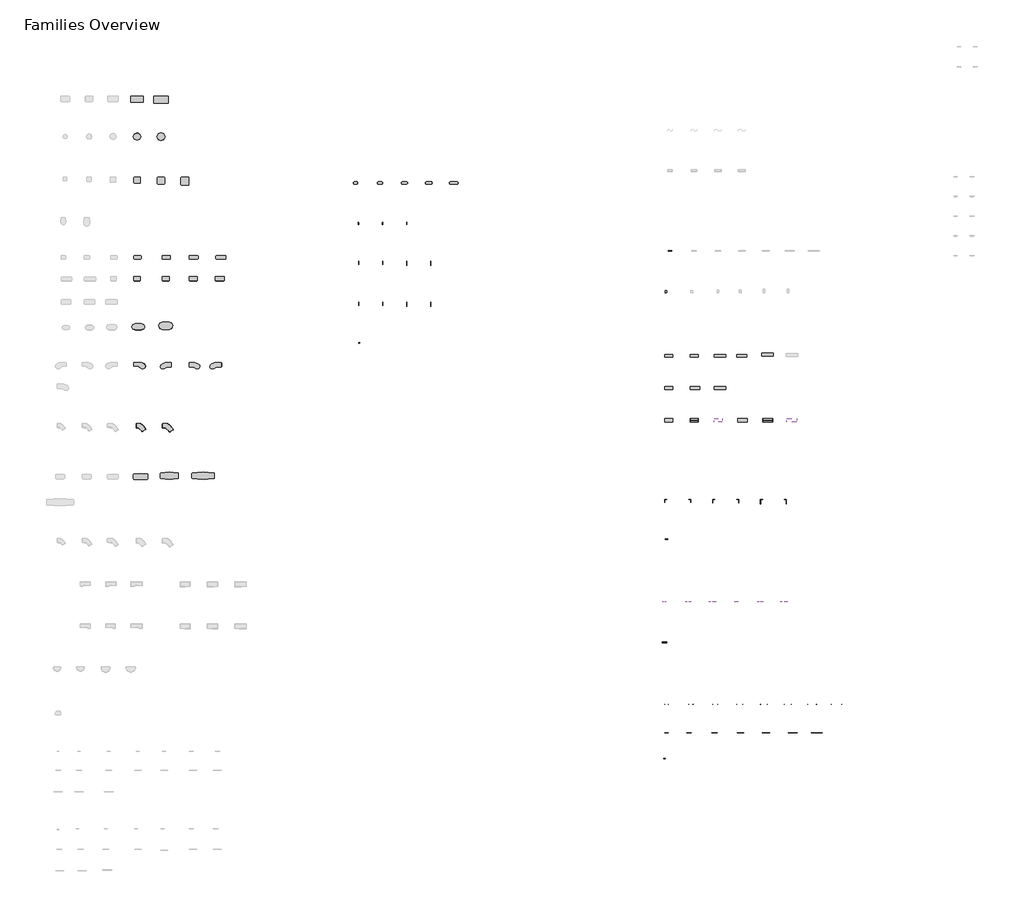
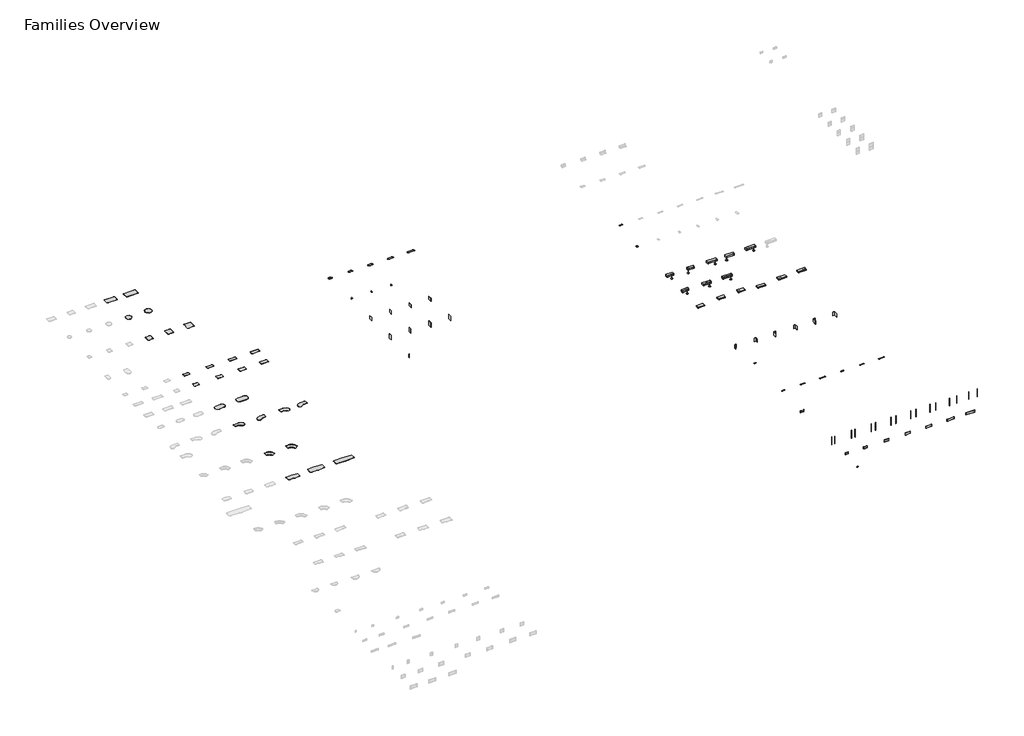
# One storey, part 2 of 3: 89 furniture elements.
"""IFC4 building model written with IfcOpenShell, lengths in millimetres."""

from ifc_helpers import new_model, si_unit, origin, place, context, project, spatial, transform, mapped, element, save
from components import furniture_37d5e29d, furniture_247991a5, furniture_6e175020, furniture_258b9b2a, furniture_7c6aa1f0, furniture_93c865bc, furniture_d00dbc6a, furniture_94bb5d37, furniture_0152e6e9, furniture_3f4145d6, furniture_1f974b37, furniture_5c34945c, furniture_b2e68e31, furniture_16fe0a90, furniture_c1630981, furniture_5bc7b9bf, furniture_8978cb52, furniture_54dfe461, furniture_2d95de3c, furniture_6a103a17, furniture_5fa1d2bb, furniture_203bedc0, furniture_24w_0eacc534, furniture_30w_40e7200a, furniture_30in_f4545fb5, furniture_36w_668825fa, furniture_36in_3b2f66a0, furniture_42w_5b713fd4, furniture_42in_8c8d06e0, furniture_48w_070e4805, furniture_48in_ed8b7022, furniture_54w_5c1945f5, furniture_54w_30in_aff_application_22918827, furniture_54w_42in_aff_application_afbcb237, furniture_54w_48in_aff_application_f83b6835, furniture_54w_left_7cc40421, furniture_54w_right_393ddbf9, furniture_60w_438cd771, furniture_60in_400902f2, furniture_66w_7eafc7d5, furniture_66w_30in_aff_application_ae644d3c, furniture_66w_42in_aff_application_57f57bfd, furniture_66w_48in_aff_application_84337265, furniture_66w_left_0483f67a, furniture_66w_right_cff1954f, furniture_72w_aa4fbc93, furniture_78w_5b03bcda, bracket_7c94740e, left_3864d0c0, power_and_data_strip_18ff1617, rail_mounted_95e6053c, right_3d4eb8b5, shared_88433d17, steelcase_answer_freestanding_support_corner_8e75fba9, steelcase_answer_solution_corner_shelf_15_3_8d_left_0fe8a52e, steelcase_answer_solution_end_panel_on_module_24in_left_b476144d, steelcase_answer_solution_end_panel_on_module_24in_right_417587d6, steelcase_answer_solution_end_panel_on_module_30in_left_bc11ca10, steelcase_answer_solution_end_panel_on_module_30in_right_e7d03cb3, steelcase_answer_solution_end_panel_standing_height_24in_e54e53b6, steelcase_answer_solution_end_panel_standing_height_30in_ff82113f, steelcase_answer_solution_slim_shelf_24in_9e6cb317, steelcase_answer_solution_u_free_desk_end_support_18d_left_e469fbe7, steelcase_answer_solution_u_free_desk_end_support_18d_right_9118059c, steelcase_answer_solution_u_free_desk_end_support_24d_left_3a62796d, steelcase_answer_solution_u_free_desk_end_support_24d_right_f5ae7126, steelcase_answer_solution_u_free_desk_end_support_30d_left_8c8419ba, steelcase_answer_solution_u_free_desk_end_support_30d_right_af2553b0, steelcase_answer_solution_universal_table_rectangular_500580d4, steelcase_answer_solution_universal_table_rectangular_2bf88e8f, steelcase_answer_solution_universal_table_round_48dia_d038612e, steelcase_answer_solution_universal_table_round_54dia_efa4fc29, steelcase_answer_solution_universal_table_square_9a7261b0, steelcase_answer_solution_universal_table_square_16abb5a8, steelcase_answer_solution_universal_table_square_e7776e50, steelcase_answer_solution_wall_channel_66h_24w_40697c5a, steelcase_answer_solution_wall_channel_66h_30w_994337a1, steelcase_answer_solution_wall_channel_66h_36w_325ca293, steelcase_answer_solution_wall_channel_66h_42w_ae999c96, steelcase_answer_solution_wall_channel_66h_45w_9edf4ceb, steelcase_answer_solution_wall_channel_66h_48w_5ba7d7bc, steelcase_answer_solution_wall_channel_66h_60w_7bcefa21, steelcase_answer_solution_wall_channel_66h_72w_49448df2

model = new_model("IFC4")

# Units and contexts
model_context = context("Model", 3, world=origin())
ifc_project = project(units=[si_unit("LENGTHUNIT", "METRE", prefix="MILLI")], contexts=[model_context])

# Site, building, storey
site = spatial("IfcSite", under=ifc_project)
building = spatial("IfcBuilding", under=site)
storey = spatial("IfcBuildingStorey", under=building, Name="Families Overview", Elevation=0.0)

# Furniture
placement = place(None, origin())
furniture_shape = furniture_37d5e29d(model_context)
element("IfcFurniture", 1, ObjectType="Steelcase - Answer Solution - Lighting - Bottomline Shelf Light : With Daisy Chain Cord - 23 1/4W", at=placement, inside=storey, context=model_context, shape_type="MappedRepresentation", body=[
    mapped(furniture_shape, transform((92276.0926755, -352390.4437166, 0.0), x_axis=(1.0, 0.0, 0.0), y_axis=(0.0, 1.0, 0.0), z_axis=(0.0, 0.0, 1.0))),
])
element("IfcFurniture", 2, ObjectType="Steelcase - Answer Solution - Lighting - Bottomline Shelf Light : With Daisy Chain Starter Cord - 23 1/4W", at=placement, inside=storey, context=model_context, shape_type="MappedRepresentation", body=[
    mapped(furniture_shape, transform((104468.0926755, -352390.4437166, 0.0), x_axis=(1.0, 0.0, 0.0), y_axis=(0.0, 1.0, 0.0), z_axis=(0.0, 0.0, 1.0))),
])
furniture_2_shape = furniture_247991a5(model_context)
element("IfcFurniture", 3, ObjectType="Steelcase - Answer Solution - Lighting - Bottomline Shelf Light : With Daisy Chain Cord - 35W", at=placement, inside=storey, context=model_context, shape_type="MappedRepresentation", body=[
    mapped(furniture_2_shape, transform((96340.0926755, -352390.4437166, 0.0), x_axis=(1.0, 0.0, 0.0), y_axis=(0.0, 1.0, 0.0), z_axis=(0.0, 0.0, 1.0))),
])
furniture_3_shape = furniture_6e175020(model_context)
element("IfcFurniture", 4, ObjectType="Steelcase - Answer Solution - Lighting - Bottomline Shelf Light : With Daisy Chain Cord - 46 3/4W", at=placement, inside=storey, context=model_context, shape_type="MappedRepresentation", body=[
    mapped(furniture_3_shape, transform((100404.0926755, -352390.4437166, 0.0), x_axis=(1.0, 0.0, 0.0), y_axis=(0.0, 1.0, 0.0), z_axis=(0.0, 0.0, 1.0))),
])
element("IfcFurniture", 5, ObjectType="Steelcase - Answer Solution - Lighting - Bottomline Shelf Light : With Daisy Chain Starter Cord - 35W", at=placement, inside=storey, context=model_context, shape_type="MappedRepresentation", body=[
    mapped(furniture_2_shape, transform((108532.0926755, -352390.4437166, 0.0), x_axis=(1.0, 0.0, 0.0), y_axis=(0.0, 1.0, 0.0), z_axis=(0.0, 0.0, 1.0))),
])
element("IfcFurniture", 6, ObjectType="Steelcase - Answer Solution - Lighting - Bottomline Shelf Light : With Daisy Chain Starter Cord - 46 3/4W", at=placement, inside=storey, context=model_context, shape_type="MappedRepresentation", body=[
    mapped(furniture_3_shape, transform((112545.2926755, -352390.4437166, 0.0), x_axis=(1.0, 0.0, 0.0), y_axis=(0.0, 1.0, 0.0), z_axis=(0.0, 0.0, 1.0))),
])
furniture_4_shape = furniture_258b9b2a(model_context)
element("IfcFurniture", 7, ObjectType="Steelcase - Answer Solution - Universal Table - Straight - 3mm Edge : 30D x 60W", at=placement, inside=storey, context=model_context, shape_type="MappedRepresentation", body=[
    mapped(furniture_4_shape, transform((16073.9371936, -297113.7746531, 0.0), x_axis=(1.0, 0.0, 0.0), y_axis=(0.0, 1.0, 0.0), z_axis=(0.0, 0.0, 1.0))),
])
furniture_5_shape = furniture_7c6aa1f0(model_context)
element("IfcFurniture", 8, ObjectType="Steelcase - Answer Solution - Universal Table - Straight - 3mm Edge : 24D x 54W", at=placement, inside=storey, context=model_context, shape_type="MappedRepresentation", body=[
    mapped(furniture_5_shape, transform((7082.3371936, -293608.5746531, 0.0), x_axis=(1.0, 0.0, 0.0), y_axis=(0.0, 1.0, 0.0), z_axis=(0.0, 0.0, 1.0))),
])
furniture_6_shape = furniture_93c865bc(model_context)
element("IfcFurniture", 9, ObjectType="Steelcase - Answer Solution - Universal Table - Straight - 3mm Edge : 24D x 66W", at=placement, inside=storey, context=model_context, shape_type="MappedRepresentation", body=[
    mapped(furniture_6_shape, transform((16200.9371936, -293608.5746531, 0.0), x_axis=(1.0, 0.0, 0.0), y_axis=(0.0, 1.0, 0.0), z_axis=(0.0, 0.0, 1.0))),
])
furniture_7_shape = furniture_d00dbc6a(model_context)
element("IfcFurniture", 10, ObjectType="Steelcase - Answer Solution - Universal Table - Straight - 3mm Edge : 24D x 48W", at=placement, inside=storey, context=model_context, shape_type="MappedRepresentation", body=[
    mapped(furniture_7_shape, transform((2281.7371936, -293608.5746531, 0.0), x_axis=(1.0, 0.0, 0.0), y_axis=(0.0, 1.0, 0.0), z_axis=(0.0, 0.0, 1.0))),
])
furniture_8_shape = furniture_94bb5d37(model_context)
element("IfcFurniture", 11, ObjectType="Steelcase - Answer Solution - Universal Table - Straight - 3mm Edge : 24D x 60W", at=placement, inside=storey, context=model_context, shape_type="MappedRepresentation", body=[
    mapped(furniture_8_shape, transform((11654.3371936, -293608.5746531, 0.0), x_axis=(1.0, 0.0, 0.0), y_axis=(0.0, 1.0, 0.0), z_axis=(0.0, 0.0, 1.0))),
])
furniture_9_shape = furniture_0152e6e9(model_context)
element("IfcFurniture", 12, ObjectType="Steelcase - Answer Solution - Universal Table - Straight - 3mm Edge : 30D x 42W", at=placement, inside=storey, context=model_context, shape_type="MappedRepresentation", body=[
    mapped(furniture_9_shape, transform((2281.7371936, -297113.7746531, 0.0), x_axis=(1.0, 0.0, 0.0), y_axis=(0.0, 1.0, 0.0), z_axis=(0.0, 0.0, 1.0))),
])
furniture_10_shape = furniture_3f4145d6(model_context)
element("IfcFurniture", 13, ObjectType="Steelcase - Answer Solution - Universal Table - Straight - 3mm Edge : 30D x 48W", at=placement, inside=storey, context=model_context, shape_type="MappedRepresentation", body=[
    mapped(furniture_10_shape, transform((7082.3371936, -297113.7746531, 0.0), x_axis=(1.0, 0.0, 0.0), y_axis=(0.0, 1.0, 0.0), z_axis=(0.0, 0.0, 1.0))),
])
furniture_11_shape = furniture_1f974b37(model_context)
element("IfcFurniture", 14, ObjectType="Steelcase - Answer Solution - Universal Table - Straight - 3mm Edge : 30D x 54W", at=placement, inside=storey, context=model_context, shape_type="MappedRepresentation", body=[
    mapped(furniture_11_shape, transform((11654.3371936, -297113.7746531, 0.0), x_axis=(1.0, 0.0, 0.0), y_axis=(0.0, 1.0, 0.0), z_axis=(0.0, 0.0, 1.0))),
])
furniture_12_shape = furniture_5c34945c(model_context)
element("IfcFurniture", 15, ObjectType="Steelcase - Answer Solution - Universal Table - Capsule - 3mm Edge : 42D x 84W", at=placement, inside=storey, context=model_context, shape_type="MappedRepresentation", body=[
    mapped(furniture_12_shape, transform((3018.3371936, -305648.1746531, 0.0), x_axis=(1.0, 0.0, 0.0), y_axis=(0.0, 1.0, 0.0), z_axis=(0.0, 0.0, 1.0))),
])
furniture_13_shape = furniture_b2e68e31(model_context)
element("IfcFurniture", 16, ObjectType="Steelcase - Answer Solution - Universal Table - Capsule - 3mm Edge : 48D x 96W", at=placement, inside=storey, context=model_context, shape_type="MappedRepresentation", body=[
    mapped(furniture_13_shape, transform((7691.9371936, -305495.7746531, 0.0), x_axis=(1.0, 0.0, 0.0), y_axis=(0.0, 1.0, 0.0), z_axis=(0.0, 0.0, 1.0))),
])
furniture_14_shape = furniture_16fe0a90(model_context)
element("IfcFurniture", 17, ObjectType="Steelcase - Answer Solution - Universal Table - Bubble Jetty - 3mm Edge : 24D x 78W - Right", at=placement, inside=storey, context=model_context, shape_type="MappedRepresentation", body=[
    mapped(furniture_14_shape, transform((2281.7371936, -311744.1746531, 0.0), x_axis=(1.0, 0.0, 0.0), y_axis=(0.0, 1.0, 0.0), z_axis=(0.0, 0.0, 1.0))),
])
furniture_15_shape = furniture_c1630981(model_context)
element("IfcFurniture", 18, ObjectType="Steelcase - Answer Solution - Universal Table - Bubble Jetty - 3mm Edge : 30D x 72W - Left", at=placement, inside=storey, context=model_context, shape_type="MappedRepresentation", body=[
    mapped(furniture_15_shape, transform((8606.3371936, -311744.1746531, 0.0), x_axis=(1.0, 0.0, 0.0), y_axis=(0.0, 1.0, 0.0), z_axis=(0.0, 0.0, 1.0))),
])
furniture_16_shape = furniture_5bc7b9bf(model_context)
element("IfcFurniture", 19, ObjectType="Steelcase - Answer Solution - Universal Table - Bubble Jetty - 3mm Edge : 30D x 78W - Left", at=placement, inside=storey, context=model_context, shape_type="MappedRepresentation", body=[
    mapped(furniture_16_shape, transform((17140.7371936, -311744.1746531, 0.0), x_axis=(1.0, 0.0, 0.0), y_axis=(0.0, 1.0, 0.0), z_axis=(0.0, 0.0, 1.0))),
])
furniture_17_shape = furniture_8978cb52(model_context)
element("IfcFurniture", 20, ObjectType="Steelcase - Answer Solution - Universal Table - Bubble Jetty - 3mm Edge : 30D x 72W - Right", at=placement, inside=storey, context=model_context, shape_type="MappedRepresentation", body=[
    mapped(furniture_17_shape, transform((11654.3371936, -311744.1746531, 0.0), x_axis=(1.0, 0.0, 0.0), y_axis=(0.0, 1.0, 0.0), z_axis=(0.0, 0.0, 1.0))),
])
furniture_18_shape = furniture_54dfe461(model_context)
element("IfcFurniture", 21, ObjectType="Steelcase - Answer Solution - Universal Table - Corner 120deg - 3mm Edge : 30D x 42W", at=placement, inside=storey, context=model_context, shape_type="MappedRepresentation", body=[
    mapped(furniture_18_shape, transform((2662.7371936, -322107.3746531, 0.0), x_axis=(1.0, 0.0, 0.0), y_axis=(0.0, 1.0, 0.0), z_axis=(0.0, 0.0, 1.0))),
])
furniture_19_shape = furniture_2d95de3c(model_context)
element("IfcFurniture", 22, ObjectType="Steelcase - Answer Solution - Universal Table - Corner 120deg - 3mm Edge : 30D x 48W", at=placement, inside=storey, context=model_context, shape_type="MappedRepresentation", body=[
    mapped(furniture_19_shape, transform((7082.3371936, -322107.3746531, 0.0), x_axis=(1.0, 0.0, 0.0), y_axis=(0.0, 1.0, 0.0), z_axis=(0.0, 0.0, 1.0))),
])
furniture_20_shape = furniture_6a103a17(model_context)
element("IfcFurniture", 23, ObjectType="Steelcase - Answer Solution - Universal Table - Hex Conference : 42D x 96W", at=placement, inside=storey, context=model_context, shape_type="MappedRepresentation", body=[
    mapped(furniture_20_shape, transform((2208.7121936, -330413.1746531, 0.0), x_axis=(1.0, 0.0, 0.0), y_axis=(0.0, 1.0, 0.0), z_axis=(0.0, 0.0, 1.0))),
])
furniture_21_shape = furniture_5fa1d2bb(model_context)
element("IfcFurniture", 24, ObjectType="Steelcase - Answer Solution - Universal Table - Hex Conference : 48D x 120W", at=placement, inside=storey, context=model_context, shape_type="MappedRepresentation", body=[
    mapped(furniture_21_shape, transform((6780.7121936, -330184.5746531, 0.0), x_axis=(1.0, 0.0, 0.0), y_axis=(0.0, 1.0, 0.0), z_axis=(0.0, 0.0, 1.0))),
])
furniture_22_shape = furniture_203bedc0(model_context)
element("IfcFurniture", 25, ObjectType="Steelcase - Answer Solution - Universal Table - Hex Conference : 48D x 150W", at=placement, inside=storey, context=model_context, shape_type="MappedRepresentation", body=[
    mapped(furniture_22_shape, transform((12114.7121936, -330184.5746531, 0.0), x_axis=(1.0, 0.0, 0.0), y_axis=(0.0, 1.0, 0.0), z_axis=(0.0, 0.0, 1.0))),
])
furniture_24w_shape = furniture_24w_0eacc534(model_context)
element("IfcFurniture", 26, ObjectType="Steelcase - Answer Solution - Tackboards for Use with Wall Channels : 24W", at=placement, inside=storey, context=model_context, shape_type="MappedRepresentation", body=[
    mapped(furniture_24w_shape, transform((92237.9922444, -374525.3678408, 0.0), x_axis=(1.0, 0.0, 0.0), y_axis=(0.0, 1.0, 0.0), z_axis=(0.0, 0.0, 1.0))),
])
furniture_30w_shape = furniture_30w_40e7200a(model_context)
element("IfcFurniture", 27, ObjectType="Steelcase - Answer Solution - Tackboards for Use with Wall Channels : 30W", at=placement, inside=storey, context=model_context, shape_type="MappedRepresentation", body=[
    mapped(furniture_30w_shape, transform((95978.8201482, -374525.3678408, 0.0), x_axis=(1.0, 0.0, 0.0), y_axis=(0.0, 1.0, 0.0), z_axis=(0.0, 0.0, 1.0))),
])
furniture_30in_shape = furniture_30in_f4545fb5(model_context)
element("IfcFurniture", 28, ObjectType="Steelcase - Answer Solution - Transaction Worksurface - Square Trim - 3mm Edge : 30in", at=placement, inside=storey, context=model_context, shape_type="MappedRepresentation", body=[
    mapped(furniture_30in_shape, transform((39502.4605518, -281230.4754246, 0.0), x_axis=(1.0, 0.0, 0.0), y_axis=(0.0, 1.0, 0.0), z_axis=(0.0, 0.0, 1.0))),
])
furniture_36w_shape = furniture_36w_668825fa(model_context)
element("IfcFurniture", 29, ObjectType="Steelcase - Answer Solution - Tackboards for Use with Wall Channels : 36W", at=placement, inside=storey, context=model_context, shape_type="MappedRepresentation", body=[
    mapped(furniture_36w_shape, transform((100246.0201482, -374525.3678408, 0.0), x_axis=(1.0, 0.0, 0.0), y_axis=(0.0, 1.0, 0.0), z_axis=(0.0, 0.0, 1.0))),
])
furniture_36in_shape = furniture_36in_3b2f66a0(model_context)
element("IfcFurniture", 30, ObjectType="Steelcase - Answer Solution - Transaction Worksurface - Square Trim - 3mm Edge : 36in", at=placement, inside=storey, context=model_context, shape_type="MappedRepresentation", body=[
    mapped(furniture_36in_shape, transform((43566.4605518, -281230.4754246, 0.0), x_axis=(1.0, 0.0, 0.0), y_axis=(0.0, 1.0, 0.0), z_axis=(0.0, 0.0, 1.0))),
])
furniture_42w_shape = furniture_42w_5b713fd4(model_context)
element("IfcFurniture", 31, ObjectType="Steelcase - Answer Solution - Tackboards for Use with Wall Channels : 42W", at=placement, inside=storey, context=model_context, shape_type="MappedRepresentation", body=[
    mapped(furniture_42w_shape, transform((104564.0201482, -374525.3678408, 0.0), x_axis=(1.0, 0.0, 0.0), y_axis=(0.0, 1.0, 0.0), z_axis=(0.0, 0.0, 1.0))),
])
furniture_42in_shape = furniture_42in_8c8d06e0(model_context)
element("IfcFurniture", 32, ObjectType="Steelcase - Answer Solution - Transaction Worksurface - Square Trim - 3mm Edge : 42in", at=placement, inside=storey, context=model_context, shape_type="MappedRepresentation", body=[
    mapped(furniture_42in_shape, transform((47630.4605518, -281230.4754246, 0.0), x_axis=(1.0, 0.0, 0.0), y_axis=(0.0, 1.0, 0.0), z_axis=(0.0, 0.0, 1.0))),
])
furniture_48w_shape = furniture_48w_070e4805(model_context)
element("IfcFurniture", 33, ObjectType="Steelcase - Answer Solution - Tackboards for Use with Wall Channels : 48W", at=placement, inside=storey, context=model_context, shape_type="MappedRepresentation", body=[
    mapped(furniture_48w_shape, transform((108831.2201482, -374525.3678408, 0.0), x_axis=(1.0, 0.0, 0.0), y_axis=(0.0, 1.0, 0.0), z_axis=(0.0, 0.0, 1.0))),
])
furniture_48in_shape = furniture_48in_ed8b7022(model_context)
element("IfcFurniture", 34, ObjectType="Steelcase - Answer Solution - Transaction Worksurface - Square Trim - 3mm Edge : 48in", at=placement, inside=storey, context=model_context, shape_type="MappedRepresentation", body=[
    mapped(furniture_48in_shape, transform((51694.4605518, -281230.4754246, 0.0), x_axis=(1.0, 0.0, 0.0), y_axis=(0.0, 1.0, 0.0), z_axis=(0.0, 0.0, 1.0))),
])
furniture_54w_shape = furniture_54w_5c1945f5(model_context)
element("IfcFurniture", 35, ObjectType="Steelcase - Duo Storage - For Use with Answer Junction - Tall Storage with Leg - Shared : 54W", at=placement, inside=storey, context=model_context, shape_type="MappedRepresentation", body=[
    mapped(furniture_54w_shape, transform((92301.4922444, -316053.9281974, 0.0), x_axis=(1.0, 0.0, 0.0), y_axis=(0.0, 1.0, 0.0), z_axis=(0.0, 0.0, 1.0))),
])
furniture_54w_30in_aff_application_shape = furniture_54w_30in_aff_application_22918827(model_context)
element("IfcFurniture", 36, ObjectType="Steelcase - Duo Storage - For Use with Top Cap Mounted Storage - Slim : 54W - 30in AFF Application", at=placement, inside=storey, context=model_context, shape_type="MappedRepresentation", body=[
    mapped(furniture_54w_30in_aff_application_shape, transform((92301.4922444, -321540.3281974, 0.0), x_axis=(1.0, 0.0, 0.0), y_axis=(0.0, 1.0, 0.0), z_axis=(0.0, 0.0, 1.0))),
])
furniture_54w_42in_aff_application_shape = furniture_54w_42in_aff_application_afbcb237(model_context)
element("IfcFurniture", 37, ObjectType="Steelcase - Duo Storage - For Use with Top Cap Mounted Storage - Slim : 54W - 42in AFF Application", at=placement, inside=storey, context=model_context, shape_type="MappedRepresentation", body=[
    mapped(furniture_54w_42in_aff_application_shape, transform((96594.0922444, -321540.3281974, 0.0), x_axis=(1.0, 0.0, 0.0), y_axis=(0.0, 1.0, 0.0), z_axis=(0.0, 0.0, 1.0))),
])
furniture_54w_48in_aff_application_shape = furniture_54w_48in_aff_application_f83b6835(model_context)
element("IfcFurniture", 38, ObjectType="Steelcase - Duo Storage - For Use with Top Cap Mounted Storage - Slim : 54W - 48in AFF Application", at=placement, inside=storey, context=model_context, shape_type="MappedRepresentation", body=[
    mapped(furniture_54w_48in_aff_application_shape, transform((100658.0922444, -321540.3281974, 0.0), x_axis=(1.0, 0.0, 0.0), y_axis=(0.0, 1.0, 0.0), z_axis=(0.0, 0.0, 1.0))),
])
furniture_54w_left_shape = furniture_54w_left_7cc40421(model_context)
element("IfcFurniture", 39, ObjectType="Steelcase - Duo Storage - For Use with Answer Junction - Tall Storage with Leg - Individual : 54W - Left", at=placement, inside=storey, context=model_context, shape_type="MappedRepresentation", body=[
    mapped(furniture_54w_left_shape, transform((92301.4922444, -310567.5281974, 0.0), x_axis=(1.0, 0.0, 0.0), y_axis=(0.0, 1.0, 0.0), z_axis=(0.0, 0.0, 1.0))),
])
furniture_54w_right_shape = furniture_54w_right_393ddbf9(model_context)
element("IfcFurniture", 40, ObjectType="Steelcase - Duo Storage - For Use with Answer Junction - Tall Storage with Leg - Individual : 54W - Right", at=placement, inside=storey, context=model_context, shape_type="MappedRepresentation", body=[
    mapped(furniture_54w_right_shape, transform((96594.0922444, -310567.5281974, 0.0), x_axis=(1.0, 0.0, 0.0), y_axis=(0.0, 1.0, 0.0), z_axis=(0.0, 0.0, 1.0))),
])
furniture_60w_shape = furniture_60w_438cd771(model_context)
element("IfcFurniture", 41, ObjectType="Steelcase - Answer Solution - Tackboards for Use with Wall Channels : 60W", at=placement, inside=storey, context=model_context, shape_type="MappedRepresentation", body=[
    mapped(furniture_60w_shape, transform((113200.0201482, -374525.3678408, 0.0), x_axis=(1.0, 0.0, 0.0), y_axis=(0.0, 1.0, 0.0), z_axis=(0.0, 0.0, 1.0))),
])
furniture_60in_shape = furniture_60in_400902f2(model_context)
element("IfcFurniture", 42, ObjectType="Steelcase - Answer Solution - Transaction Worksurface - Square Trim - 3mm Edge : 60in", at=placement, inside=storey, context=model_context, shape_type="MappedRepresentation", body=[
    mapped(furniture_60in_shape, transform((55758.4605518, -281230.4754246, 0.0), x_axis=(1.0, 0.0, 0.0), y_axis=(0.0, 1.0, 0.0), z_axis=(0.0, 0.0, 1.0))),
])
furniture_66w_shape = furniture_66w_7eafc7d5(model_context)
element("IfcFurniture", 43, ObjectType="Steelcase - Duo Storage - For Use with Answer Junction - Tall Storage with Leg - Shared : 66W", at=placement, inside=storey, context=model_context, shape_type="MappedRepresentation", body=[
    mapped(furniture_66w_shape, transform((96594.0922444, -316053.9281974, 0.0), x_axis=(1.0, 0.0, 0.0), y_axis=(0.0, 1.0, 0.0), z_axis=(0.0, 0.0, 1.0))),
])
furniture_66w_30in_aff_application_shape = furniture_66w_30in_aff_application_ae644d3c(model_context)
element("IfcFurniture", 44, ObjectType="Steelcase - Duo Storage - For Use with Top Cap Mounted Storage - Slim : 66W - 30in AFF Application", at=placement, inside=storey, context=model_context, shape_type="MappedRepresentation", body=[
    mapped(furniture_66w_30in_aff_application_shape, transform((104645.8922444, -321540.3281974, 0.0), x_axis=(1.0, 0.0, 0.0), y_axis=(0.0, 1.0, 0.0), z_axis=(0.0, 0.0, 1.0))),
])
furniture_66w_42in_aff_application_shape = furniture_66w_42in_aff_application_57f57bfd(model_context)
element("IfcFurniture", 45, ObjectType="Steelcase - Duo Storage - For Use with Top Cap Mounted Storage - Slim : 66W - 42in AFF Application", at=placement, inside=storey, context=model_context, shape_type="MappedRepresentation", body=[
    mapped(furniture_66w_42in_aff_application_shape, transform((108938.4922444, -321540.3281974, 0.0), x_axis=(1.0, 0.0, 0.0), y_axis=(0.0, 1.0, 0.0), z_axis=(0.0, 0.0, 1.0))),
])
furniture_66w_48in_aff_application_shape = furniture_66w_48in_aff_application_84337265(model_context)
element("IfcFurniture", 46, ObjectType="Steelcase - Duo Storage - For Use with Top Cap Mounted Storage - Slim : 66W - 48in AFF Application", at=placement, inside=storey, context=model_context, shape_type="MappedRepresentation", body=[
    mapped(furniture_66w_48in_aff_application_shape, transform((113002.4922444, -321540.3281974, 0.0), x_axis=(1.0, 0.0, 0.0), y_axis=(0.0, 1.0, 0.0), z_axis=(0.0, 0.0, 1.0))),
])
furniture_66w_left_shape = furniture_66w_left_0483f67a(model_context)
element("IfcFurniture", 47, ObjectType="Steelcase - Duo Storage - For Use with Answer Junction - Tall Storage with Leg - Individual : 66W - Left", at=placement, inside=storey, context=model_context, shape_type="MappedRepresentation", body=[
    mapped(furniture_66w_left_shape, transform((100658.0922444, -310567.5281974, 0.0), x_axis=(1.0, 0.0, 0.0), y_axis=(0.0, 1.0, 0.0), z_axis=(0.0, 0.0, 1.0))),
])
furniture_66w_right_shape = furniture_66w_right_cff1954f(model_context)
element("IfcFurniture", 48, ObjectType="Steelcase - Duo Storage - For Use with Answer Junction - Tall Storage with Leg - Individual : 66W - Right", at=placement, inside=storey, context=model_context, shape_type="MappedRepresentation", body=[
    mapped(furniture_66w_right_shape, transform((104493.4922444, -310567.5281974, 0.0), x_axis=(1.0, 0.0, 0.0), y_axis=(0.0, 1.0, 0.0), z_axis=(0.0, 0.0, 1.0))),
])
furniture_72w_shape = furniture_72w_aa4fbc93(model_context)
element("IfcFurniture", 49, ObjectType="Steelcase - Answer Solution - Tackboards for Use with Wall Channels : 72W", at=placement, inside=storey, context=model_context, shape_type="MappedRepresentation", body=[
    mapped(furniture_72w_shape, transform((117111.6201482, -374525.3678408, 0.0), x_axis=(1.0, 0.0, 0.0), y_axis=(0.0, 1.0, 0.0), z_axis=(0.0, 0.0, 1.0))),
])
furniture_78w_shape = furniture_78w_5b03bcda(model_context)
element("IfcFurniture", 50, ObjectType="Steelcase - Duo Storage - For Use with Answer Junction - Tall Storage with Leg - Shared : 78W", at=placement, inside=storey, context=model_context, shape_type="MappedRepresentation", body=[
    mapped(furniture_78w_shape, transform((100658.0922444, -316053.9281974, 0.0), x_axis=(1.0, 0.0, 0.0), y_axis=(0.0, 1.0, 0.0), z_axis=(0.0, 0.0, 1.0))),
])
element("IfcFurniture", 51, ObjectType="Steelcase - Duo Storage - For Use with Answer Junction - Tall Storage with Leg - Individual : 78W - Left", at=placement, inside=storey, context=model_context, shape_type="MappedRepresentation", body=[
    mapped(furniture_66w_left_shape, transform((108709.8922444, -310379.0085696, 0.0), x_axis=(1.0, 0.0, 0.0), y_axis=(0.0, 1.0, 0.0), z_axis=(0.0, 0.0, 1.0))),
])
bracket_shape = bracket_7c94740e(model_context)
element("IfcFurniture", 52, ObjectType="Steelcase - Answer Solution - U-Free Desk - Flush Mount Bracket : Bracket", at=placement, inside=storey, context=model_context, shape_type="MappedRepresentation", body=[
    mapped(bracket_shape, transform((92536.4422436, -341686.9786999, 0.0), x_axis=(1.0, 0.0, 0.0), y_axis=(0.0, 1.0, 0.0), z_axis=(0.0, 0.0, 1.0))),
])
left_shape = left_3864d0c0(model_context)
element("IfcFurniture", 53, ObjectType="Steelcase - Answer Solution - Panel Mounted Universal Support - Cantilever : Left", at=placement, inside=storey, context=model_context, shape_type="MappedRepresentation", body=[
    mapped(left_shape, transform((40350.0585518, -287940.8379246, 0.0), x_axis=(1.0, 0.0, 0.0), y_axis=(0.0, 1.0, 0.0), z_axis=(0.0, 0.0, 1.0))),
])
power_and_data_strip_shape = power_and_data_strip_18ff1617(model_context)
element("IfcFurniture", 54, ObjectType="Steelcase - Answer Solution - Power Strips : Power and Data Strip", at=placement, inside=storey, context=model_context, shape_type="MappedRepresentation", body=[
    mapped(power_and_data_strip_shape, transform((92023.9844314, -378726.7894924, 0.0), x_axis=(1.0, 0.0, 0.0), y_axis=(0.0, 1.0, 0.0), z_axis=(0.0, 0.0, 1.0))),
])
rail_mounted_shape = rail_mounted_95e6053c(model_context)
element("IfcFurniture", 55, ObjectType="Steelcase - Answer Solution - Lighting - LED Personal Task Light : Rail Mounted", at=placement, inside=storey, context=model_context, shape_type="MappedRepresentation", body=[
    mapped(rail_mounted_shape, transform((92276.0922444, -359262.0079921, 0.0), x_axis=(1.0, 0.0, 0.0), y_axis=(0.0, 1.0, 0.0), z_axis=(0.0, 0.0, 1.0))),
])
right_shape = right_3d4eb8b5(model_context)
element("IfcFurniture", 56, ObjectType="Steelcase - Answer Solution - Panel Mounted Universal Support - Cantilever : Right", at=placement, inside=storey, context=model_context, shape_type="MappedRepresentation", body=[
    mapped(right_shape, transform((44480.8605518, -287940.8379246, 0.0), x_axis=(1.0, 0.0, 0.0), y_axis=(0.0, 1.0, 0.0), z_axis=(0.0, 0.0, 1.0))),
])
shared_shape = shared_88433d17(model_context)
element("IfcFurniture", 57, ObjectType="Steelcase - Answer Solution - Panel Mounted Universal Support - Cantilever : Shared", at=placement, inside=storey, context=model_context, shape_type="MappedRepresentation", body=[
    mapped(shared_shape, transform((48544.8605518, -287940.8379246, 0.0), x_axis=(1.0, 0.0, 0.0), y_axis=(0.0, 1.0, 0.0), z_axis=(0.0, 0.0, 1.0))),
])
steelcase_answer_freestanding_support_corner_shape = steelcase_answer_freestanding_support_corner_8e75fba9(model_context)
element("IfcFurniture", 58, ObjectType="Steelcase - Answer Freestanding - Support - Corner : 5 1/2in x 5 1/2in x 27H", at=placement, inside=storey, context=model_context, shape_type="MappedRepresentation", body=[
    mapped(steelcase_answer_freestanding_support_corner_shape, transform((40416.885952, -308362.4379246, 0.0), x_axis=(1.0, 0.0, 0.0), y_axis=(0.0, 1.0, 0.0), z_axis=(0.0, 0.0, 1.0))),
])
steelcase_answer_solution_corner_shelf_15_3_8d_left_shape = steelcase_answer_solution_corner_shelf_15_3_8d_left_0fe8a52e(model_context)
element("IfcFurniture", 59, ObjectType="Steelcase - Answer Solution - Corner Shelf : 15 3/8D - Left", at=placement, inside=storey, context=model_context, shape_type="MappedRepresentation", body=[
    mapped(steelcase_answer_solution_corner_shelf_15_3_8d_left_shape, transform((92212.5922444, -299436.9426286, 0.0), x_axis=(1.0, 0.0, 0.0), y_axis=(0.0, 1.0, 0.0), z_axis=(0.0, 0.0, 1.0))),
])
steelcase_answer_solution_end_panel_on_module_24in_left_shape = steelcase_answer_solution_end_panel_on_module_24in_left_b476144d(model_context)
element("IfcFurniture", 60, ObjectType="Steelcase - Answer Solution - End Panel - On Module : 24in - Left", at=placement, inside=storey, context=model_context, shape_type="MappedRepresentation", body=[
    mapped(steelcase_answer_solution_end_panel_on_module_24in_left_shape, transform((40426.385358, -294494.0379246, 0.0), x_axis=(1.0, 0.0, 0.0), y_axis=(0.0, 1.0, 0.0), z_axis=(0.0, 0.0, 1.0))),
])
steelcase_answer_solution_end_panel_on_module_24in_right_shape = steelcase_answer_solution_end_panel_on_module_24in_right_417587d6(model_context)
element("IfcFurniture", 61, ObjectType="Steelcase - Answer Solution - End Panel - On Module : 24in - Right", at=placement, inside=storey, context=model_context, shape_type="MappedRepresentation", body=[
    mapped(steelcase_answer_solution_end_panel_on_module_24in_right_shape, transform((44487.845358, -294494.0379246, 0.0), x_axis=(1.0, 0.0, 0.0), y_axis=(0.0, 1.0, 0.0), z_axis=(0.0, 0.0, 1.0))),
])
steelcase_answer_solution_end_panel_on_module_30in_left_shape = steelcase_answer_solution_end_panel_on_module_30in_left_bc11ca10(model_context)
element("IfcFurniture", 62, ObjectType="Steelcase - Answer Solution - End Panel - On Module : 30in - Left", at=placement, inside=storey, context=model_context, shape_type="MappedRepresentation", body=[
    mapped(steelcase_answer_solution_end_panel_on_module_30in_left_shape, transform((48554.385358, -294494.0379246, 0.0), x_axis=(1.0, 0.0, 0.0), y_axis=(0.0, 1.0, 0.0), z_axis=(0.0, 0.0, 1.0))),
])
steelcase_answer_solution_end_panel_on_module_30in_right_shape = steelcase_answer_solution_end_panel_on_module_30in_right_e7d03cb3(model_context)
element("IfcFurniture", 63, ObjectType="Steelcase - Answer Solution - End Panel - On Module : 30in - Right", at=placement, inside=storey, context=model_context, shape_type="MappedRepresentation", body=[
    mapped(steelcase_answer_solution_end_panel_on_module_30in_right_shape, transform((52615.845358, -294494.0379246, 0.0), x_axis=(1.0, 0.0, 0.0), y_axis=(0.0, 1.0, 0.0), z_axis=(0.0, 0.0, 1.0))),
])
steelcase_answer_solution_end_panel_standing_height_24in_shape = steelcase_answer_solution_end_panel_standing_height_24in_e54e53b6(model_context)
element("IfcFurniture", 64, ObjectType="Steelcase - Answer Solution - End Panel - Standing Height : 24in - Left", at=placement, inside=storey, context=model_context, shape_type="MappedRepresentation", body=[
    mapped(steelcase_answer_solution_end_panel_standing_height_24in_shape, transform((40416.8605518, -301504.4379246, 0.0), x_axis=(1.0, 0.0, 0.0), y_axis=(0.0, 1.0, 0.0), z_axis=(0.0, 0.0, 1.0))),
])
element("IfcFurniture", 65, ObjectType="Steelcase - Answer Solution - End Panel - Standing Height : 24in - Right", at=placement, inside=storey, context=model_context, shape_type="MappedRepresentation", body=[
    mapped(steelcase_answer_solution_end_panel_standing_height_24in_shape, transform((44480.8605518, -301504.4379246, 0.0), x_axis=(1.0, 0.0, 0.0), y_axis=(0.0, 1.0, 0.0), z_axis=(0.0, 0.0, 1.0))),
])
steelcase_answer_solution_end_panel_standing_height_30in_shape = steelcase_answer_solution_end_panel_standing_height_30in_ff82113f(model_context)
element("IfcFurniture", 66, ObjectType="Steelcase - Answer Solution - End Panel - Standing Height : 30in - Left", at=placement, inside=storey, context=model_context, shape_type="MappedRepresentation", body=[
    mapped(steelcase_answer_solution_end_panel_standing_height_30in_shape, transform((48544.8605518, -301504.4379246, 0.0), x_axis=(1.0, 0.0, 0.0), y_axis=(0.0, 1.0, 0.0), z_axis=(0.0, 0.0, 1.0))),
])
element("IfcFurniture", 67, ObjectType="Steelcase - Answer Solution - End Panel - Standing Height : 30in - Right", at=placement, inside=storey, context=model_context, shape_type="MappedRepresentation", body=[
    mapped(steelcase_answer_solution_end_panel_standing_height_30in_shape, transform((52608.8605518, -301504.4379246, 0.0), x_axis=(1.0, 0.0, 0.0), y_axis=(0.0, 1.0, 0.0), z_axis=(0.0, 0.0, 1.0))),
])
steelcase_answer_solution_slim_shelf_24in_shape = steelcase_answer_solution_slim_shelf_24in_9e6cb317(model_context)
element("IfcFurniture", 68, ObjectType="Steelcase - Answer Solution - Slim Shelf : 24in", at=placement, inside=storey, context=model_context, shape_type="MappedRepresentation", body=[
    mapped(steelcase_answer_solution_slim_shelf_24in_shape, transform((92885.6922444, -292708.5915943, 0.0), x_axis=(1.0, 0.0, 0.0), y_axis=(0.0, 1.0, 0.0), z_axis=(0.0, 0.0, 1.0))),
])
steelcase_answer_solution_u_free_desk_end_support_18d_left_shape = steelcase_answer_solution_u_free_desk_end_support_18d_left_e469fbe7(model_context)
element("IfcFurniture", 69, ObjectType="Steelcase - Answer Solution - U-Free Desk - End Support : 18D - Left", at=placement, inside=storey, context=model_context, shape_type="MappedRepresentation", body=[
    mapped(steelcase_answer_solution_u_free_desk_end_support_18d_left_shape, transform((92272.9913063, -334974.6150281, 0.0), x_axis=(1.0, 0.0, 0.0), y_axis=(0.0, 1.0, 0.0), z_axis=(0.0, 0.0, 1.0))),
])
steelcase_answer_solution_u_free_desk_end_support_18d_right_shape = steelcase_answer_solution_u_free_desk_end_support_18d_right_9118059c(model_context)
element("IfcFurniture", 70, ObjectType="Steelcase - Answer Solution - U-Free Desk - End Support : 18D - Right", at=placement, inside=storey, context=model_context, shape_type="MappedRepresentation", body=[
    mapped(steelcase_answer_solution_u_free_desk_end_support_18d_right_shape, transform((96336.9913063, -334974.6150281, 0.0), x_axis=(1.0, 0.0, 0.0), y_axis=(0.0, 1.0, 0.0), z_axis=(0.0, 0.0, 1.0))),
])
steelcase_answer_solution_u_free_desk_end_support_24d_left_shape = steelcase_answer_solution_u_free_desk_end_support_24d_left_3a62796d(model_context)
element("IfcFurniture", 71, ObjectType="Steelcase - Answer Solution - U-Free Desk - End Support : 24D - Left", at=placement, inside=storey, context=model_context, shape_type="MappedRepresentation", body=[
    mapped(steelcase_answer_solution_u_free_desk_end_support_24d_left_shape, transform((100400.9913063, -334974.6150281, 0.0), x_axis=(1.0, 0.0, 0.0), y_axis=(0.0, 1.0, 0.0), z_axis=(0.0, 0.0, 1.0))),
])
steelcase_answer_solution_u_free_desk_end_support_24d_right_shape = steelcase_answer_solution_u_free_desk_end_support_24d_right_f5ae7126(model_context)
element("IfcFurniture", 72, ObjectType="Steelcase - Answer Solution - U-Free Desk - End Support : 24D - Right", at=placement, inside=storey, context=model_context, shape_type="MappedRepresentation", body=[
    mapped(steelcase_answer_solution_u_free_desk_end_support_24d_right_shape, transform((104464.9913063, -334974.6150281, 0.0), x_axis=(1.0, 0.0, 0.0), y_axis=(0.0, 1.0, 0.0), z_axis=(0.0, 0.0, 1.0))),
])
steelcase_answer_solution_u_free_desk_end_support_30d_left_shape = steelcase_answer_solution_u_free_desk_end_support_30d_left_8c8419ba(model_context)
element("IfcFurniture", 73, ObjectType="Steelcase - Answer Solution - U-Free Desk - End Support : 30D - Left", at=placement, inside=storey, context=model_context, shape_type="MappedRepresentation", body=[
    mapped(steelcase_answer_solution_u_free_desk_end_support_30d_left_shape, transform((108528.9913063, -334974.6150281, 0.0), x_axis=(1.0, 0.0, 0.0), y_axis=(0.0, 1.0, 0.0), z_axis=(0.0, 0.0, 1.0))),
])
steelcase_answer_solution_u_free_desk_end_support_30d_right_shape = steelcase_answer_solution_u_free_desk_end_support_30d_right_af2553b0(model_context)
element("IfcFurniture", 74, ObjectType="Steelcase - Answer Solution - U-Free Desk - End Support : 30D - Right", at=placement, inside=storey, context=model_context, shape_type="MappedRepresentation", body=[
    mapped(steelcase_answer_solution_u_free_desk_end_support_30d_right_shape, transform((112542.1913063, -334974.6150281, 0.0), x_axis=(1.0, 0.0, 0.0), y_axis=(0.0, 1.0, 0.0), z_axis=(0.0, 0.0, 1.0))),
])
steelcase_answer_solution_universal_table_rectangular_shape = steelcase_answer_solution_universal_table_rectangular_500580d4(model_context)
element("IfcFurniture", 75, ObjectType="Steelcase - Answer Solution - Universal Table - Rectangular : 42D x 84W", at=placement, inside=storey, context=model_context, shape_type="MappedRepresentation", body=[
    mapped(steelcase_answer_solution_universal_table_rectangular_shape, transform((1748.3371936, -266533.8507324, 0.0), x_axis=(1.0, 0.0, 0.0), y_axis=(0.0, 1.0, 0.0), z_axis=(0.0, 0.0, 1.0))),
])
steelcase_answer_solution_universal_table_rectangular_2_shape = steelcase_answer_solution_universal_table_rectangular_2bf88e8f(model_context)
element("IfcFurniture", 76, ObjectType="Steelcase - Answer Solution - Universal Table - Rectangular : 48D x 96W", at=placement, inside=storey, context=model_context, shape_type="MappedRepresentation", body=[
    mapped(steelcase_answer_solution_universal_table_rectangular_2_shape, transform((5659.9371936, -266533.8507324, 0.0), x_axis=(1.0, 0.0, 0.0), y_axis=(0.0, 1.0, 0.0), z_axis=(0.0, 0.0, 1.0))),
])
steelcase_answer_solution_universal_table_round_48dia_shape = steelcase_answer_solution_universal_table_round_48dia_d038612e(model_context)
element("IfcFurniture", 77, ObjectType="Steelcase - Answer Solution - Universal Table - Round : 48Dia", at=placement, inside=storey, context=model_context, shape_type="MappedRepresentation", body=[
    mapped(steelcase_answer_solution_universal_table_round_48dia_shape, transform((2815.1371936, -273391.8507324, 0.0), x_axis=(1.0, 0.0, 0.0), y_axis=(0.0, 1.0, 0.0), z_axis=(0.0, 0.0, 1.0))),
])
steelcase_answer_solution_universal_table_round_54dia_shape = steelcase_answer_solution_universal_table_round_54dia_efa4fc29(model_context)
element("IfcFurniture", 78, ObjectType="Steelcase - Answer Solution - Universal Table - Round : 54Dia", at=placement, inside=storey, context=model_context, shape_type="MappedRepresentation", body=[
    mapped(steelcase_answer_solution_universal_table_round_54dia_shape, transform((6879.1371936, -273391.8507324, 0.0), x_axis=(1.0, 0.0, 0.0), y_axis=(0.0, 1.0, 0.0), z_axis=(0.0, 0.0, 1.0))),
])
steelcase_answer_solution_universal_table_square_shape = steelcase_answer_solution_universal_table_square_9a7261b0(model_context)
element("IfcFurniture", 79, ObjectType="Steelcase - Answer Solution - Universal Table - Square : 42D x 42W", at=placement, inside=storey, context=model_context, shape_type="MappedRepresentation", body=[
    mapped(steelcase_answer_solution_universal_table_square_shape, transform((2281.7371936, -280249.8507324, 0.0), x_axis=(1.0, 0.0, 0.0), y_axis=(0.0, 1.0, 0.0), z_axis=(0.0, 0.0, 1.0))),
])
steelcase_answer_solution_universal_table_square_2_shape = steelcase_answer_solution_universal_table_square_16abb5a8(model_context)
element("IfcFurniture", 80, ObjectType="Steelcase - Answer Solution - Universal Table - Square : 48D x 48W", at=placement, inside=storey, context=model_context, shape_type="MappedRepresentation", body=[
    mapped(steelcase_answer_solution_universal_table_square_2_shape, transform((6269.5371936, -280249.8507324, 0.0), x_axis=(1.0, 0.0, 0.0), y_axis=(0.0, 1.0, 0.0), z_axis=(0.0, 0.0, 1.0))),
])
steelcase_answer_solution_universal_table_square_3_shape = steelcase_answer_solution_universal_table_square_e7776e50(model_context)
element("IfcFurniture", 81, ObjectType="Steelcase - Answer Solution - Universal Table - Square : 54D x 54W", at=placement, inside=storey, context=model_context, shape_type="MappedRepresentation", body=[
    mapped(steelcase_answer_solution_universal_table_square_3_shape, transform((10257.3371936, -280249.8507324, 0.0), x_axis=(1.0, 0.0, 0.0), y_axis=(0.0, 1.0, 0.0), z_axis=(0.0, 0.0, 1.0))),
])
steelcase_answer_solution_wall_channel_66h_24w_shape = steelcase_answer_solution_wall_channel_66h_24w_40697c5a(model_context)
element("IfcFurniture", 82, ObjectType="Steelcase - Answer Solution - Wall Channel - 66H : 24W", at=placement, inside=storey, context=model_context, shape_type="MappedRepresentation", body=[
    mapped(steelcase_answer_solution_wall_channel_66h_24w_shape, transform((92276.0922444, -369700.9888945, 0.0), x_axis=(1.0, 0.0, 0.0), y_axis=(0.0, 1.0, 0.0), z_axis=(0.0, 0.0, 1.0))),
])
steelcase_answer_solution_wall_channel_66h_30w_shape = steelcase_answer_solution_wall_channel_66h_30w_994337a1(model_context)
element("IfcFurniture", 83, ObjectType="Steelcase - Answer Solution - Wall Channel - 66H : 30W", at=placement, inside=storey, context=model_context, shape_type="MappedRepresentation", body=[
    mapped(steelcase_answer_solution_wall_channel_66h_30w_shape, transform((96340.0922444, -369700.9888945, 0.0), x_axis=(1.0, 0.0, 0.0), y_axis=(0.0, 1.0, 0.0), z_axis=(0.0, 0.0, 1.0))),
])
steelcase_answer_solution_wall_channel_66h_36w_shape = steelcase_answer_solution_wall_channel_66h_36w_325ca293(model_context)
element("IfcFurniture", 84, ObjectType="Steelcase - Answer Solution - Wall Channel - 66H : 36W", at=placement, inside=storey, context=model_context, shape_type="MappedRepresentation", body=[
    mapped(steelcase_answer_solution_wall_channel_66h_36w_shape, transform((100404.0922444, -369700.9888945, 0.0), x_axis=(1.0, 0.0, 0.0), y_axis=(0.0, 1.0, 0.0), z_axis=(0.0, 0.0, 1.0))),
])
steelcase_answer_solution_wall_channel_66h_42w_shape = steelcase_answer_solution_wall_channel_66h_42w_ae999c96(model_context)
element("IfcFurniture", 85, ObjectType="Steelcase - Answer Solution - Wall Channel - 66H : 42W", at=placement, inside=storey, context=model_context, shape_type="MappedRepresentation", body=[
    mapped(steelcase_answer_solution_wall_channel_66h_42w_shape, transform((104468.0922444, -369700.9888945, 0.0), x_axis=(1.0, 0.0, 0.0), y_axis=(0.0, 1.0, 0.0), z_axis=(0.0, 0.0, 1.0))),
])
steelcase_answer_solution_wall_channel_66h_45w_shape = steelcase_answer_solution_wall_channel_66h_45w_9edf4ceb(model_context)
element("IfcFurniture", 86, ObjectType="Steelcase - Answer Solution - Wall Channel - 66H : 45W", at=placement, inside=storey, context=model_context, shape_type="MappedRepresentation", body=[
    mapped(steelcase_answer_solution_wall_channel_66h_45w_shape, transform((108532.0922444, -369700.9888945, 0.0), x_axis=(1.0, 0.0, 0.0), y_axis=(0.0, 1.0, 0.0), z_axis=(0.0, 0.0, 1.0))),
])
steelcase_answer_solution_wall_channel_66h_48w_shape = steelcase_answer_solution_wall_channel_66h_48w_5ba7d7bc(model_context)
element("IfcFurniture", 87, ObjectType="Steelcase - Answer Solution - Wall Channel - 66H : 48W", at=placement, inside=storey, context=model_context, shape_type="MappedRepresentation", body=[
    mapped(steelcase_answer_solution_wall_channel_66h_48w_shape, transform((112545.2922444, -369700.9888945, 0.0), x_axis=(1.0, 0.0, 0.0), y_axis=(0.0, 1.0, 0.0), z_axis=(0.0, 0.0, 1.0))),
])
steelcase_answer_solution_wall_channel_66h_60w_shape = steelcase_answer_solution_wall_channel_66h_60w_7bcefa21(model_context)
element("IfcFurniture", 88, ObjectType="Steelcase - Answer Solution - Wall Channel - 66H : 60W", at=placement, inside=storey, context=model_context, shape_type="MappedRepresentation", body=[
    mapped(steelcase_answer_solution_wall_channel_66h_60w_shape, transform((116533.0922444, -369700.9888945, 0.0), x_axis=(1.0, 0.0, 0.0), y_axis=(0.0, 1.0, 0.0), z_axis=(0.0, 0.0, 1.0))),
])
steelcase_answer_solution_wall_channel_66h_72w_shape = steelcase_answer_solution_wall_channel_66h_72w_49448df2(model_context)
element("IfcFurniture", 89, ObjectType="Steelcase - Answer Solution - Wall Channel - 66H : 72W", at=placement, inside=storey, context=model_context, shape_type="MappedRepresentation", body=[
    mapped(steelcase_answer_solution_wall_channel_66h_72w_shape, transform((120495.4922444, -369700.9888945, 0.0), x_axis=(1.0, 0.0, 0.0), y_axis=(0.0, 1.0, 0.0), z_axis=(0.0, 0.0, 1.0))),
])

save(model, "model.ifc")
